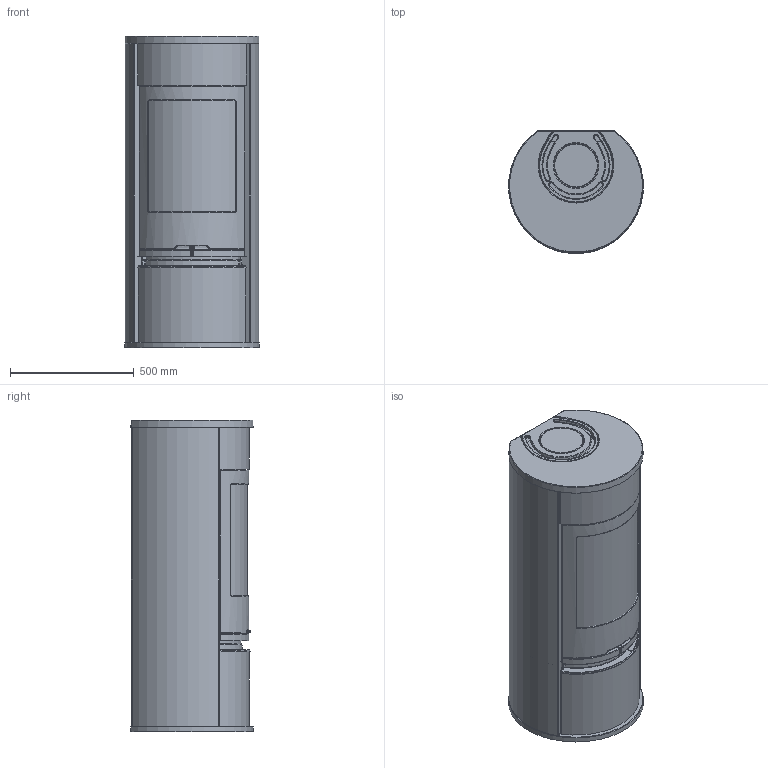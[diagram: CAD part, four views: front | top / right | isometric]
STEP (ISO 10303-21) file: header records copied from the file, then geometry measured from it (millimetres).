
FILE_DESCRIPTION(/* description */ ('Unknown'),/* implementation_level */ '2;1');
FILE_NAME(/* name */ 'C610 interior model-0',/* time_stamp */ '2017-06-28T13:08:32+02:00',/* author */ ('Unknown'),/* organization */ ('NIBE AB/Contura'),/* preprocessor_version */ 'ST-DEVELOPER v16.7',/* originating_system */ 'DEX',/* authorisation */ $);
FILE_SCHEMA (('AUTOMOTIVE_DESIGN { 1 0 10303 214 3 1 1 }','AUTOMOTIVE_DESIGN {1 0 10303 214 3 1 1}'));
Length unit declared in the file: millimetre
Products named in the file (13): DSN1018410; DSN1018428; DSN1018413; DSN1018423; DSN1018424; DSN1018427; DSN1018426; DSN1018414; DSN1018411; DSN1018429; DSN1018422; DSN1018421; DSN1018433
Assembly tree (12 placements, depth 2):
  DSN1018410
    DSN1018428
    DSN1018413
    DSN1018423
    DSN1018424
    DSN1018427
    DSN1018426
    DSN1018414
    DSN1018411
    DSN1018429
    DSN1018422
    DSN1018421
    DSN1018433
Bounding box: 542.46 x 495.19 x 1258 mm (x, y, z)
Volume: 223626753 mm3; surface area: 10264317.3 mm2
Topology: 13 solids, 19 shells, 1095 faces, 2724 edges, 1725 vertices
Faces by surface type: plane 443, bspline 262, cylinder 239, torus 84, cone 44, sphere 23
Full cylindrical faces by diameter (mm): 170 x1, 172 x1, 205 x1, 210.655 x1
Entity records: 41046 total; most frequent: CARTESIAN_POINT 17079, ORIENTED_EDGE 5388, DIRECTION 4148, EDGE_CURVE 2694, VERTEX_POINT 1725, AXIS2_PLACEMENT_3D 1614, EDGE_LOOP 1191, FACE_BOUND 1191
